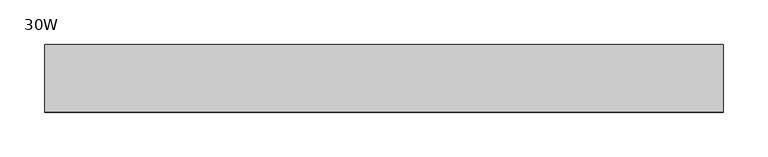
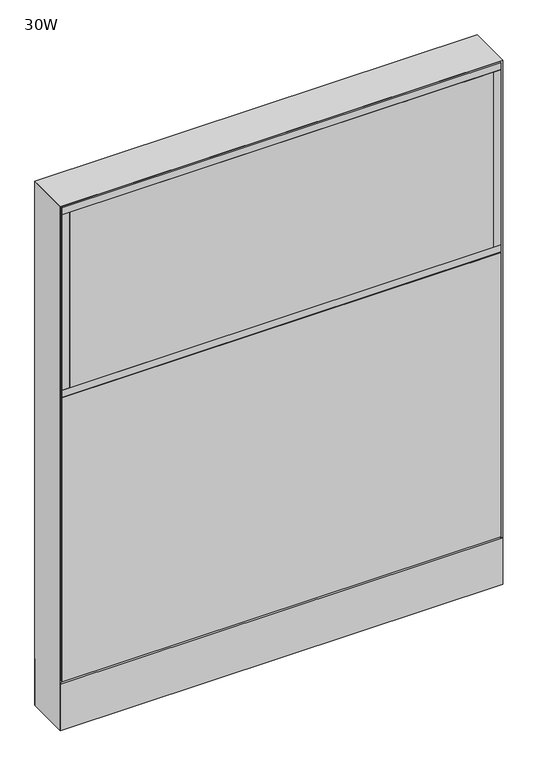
"""IFC4 building model written with IfcOpenShell, lengths in millimetres: furniture geometry, Steelcase - Montage - Frame - 38H - Enhanced Monolithic - Base Cavity : 30W."""

from ifc_helpers import new_model, si_unit, point, frame, frame_2d, origin, origin_with_axes, place, context, project, spatial, polyline, circle_curve, trimmed, segment, composite_curve, outline, extrude, faceted_brep, source, transform, mapped, element, save


def furniture_30w_8b2cd19e(model_context):
    return source(origin(), model_context, "Body", "SolidModel", [
        extrude(outline(polyline([(746.125, 31.7500296), (15.875, 31.7500296), (15.875, 38.1000326), (746.125, 38.1000326), (746.125, 31.7500296)])), frame((0.0, 0.0, 623.7626978), z_axis=(0.0, 0.0, 1.0), x_axis=(1.0, 0.0, 0.0)), (0.0, 0.0, 1.0), 319.2123022),
        extrude(outline(polyline([(746.125, -38.0999704), (15.875, -38.0999704), (15.875, -31.7499706), (746.125, -31.7499706), (746.125, -38.0999704)])), frame((0.0, 0.0, 623.7626978), z_axis=(0.0, 0.0, 1.0), x_axis=(1.0, 0.0, 0.0)), (0.0, 0.0, 1.0), 319.2123022),
        extrude(outline(polyline([(758.825, 38.1000326), (758.825, -38.0999704), (746.125, -38.0999704), (746.125, 38.1000326), (758.825, 38.1000326)])), frame((0.0, 0.0, 623.7626978), z_axis=(0.0, 0.0, 1.0), x_axis=(1.0, 0.0, 0.0)), (0.0, 0.0, 1.0), 319.2123022),
        extrude(outline(polyline([(15.875, 38.1000326), (15.875, -38.0999704), (3.175, -38.0999704), (3.175, 38.1000326), (15.875, 38.1000326)])), frame((0.0, 0.0, 623.7626978), z_axis=(0.0, 0.0, 1.0), x_axis=(1.0, 0.0, 0.0)), (0.0, 0.0, 1.0), 319.2123022),
        extrude(outline(polyline([(758.825, 38.1000326), (758.825, -38.0999704), (3.175, -38.0999704), (3.175, 38.1000326), (758.825, 38.1000326)])), frame((0.0, 0.0, 611.0626978), z_axis=(0.0, 0.0, 1.0), x_axis=(1.0, 0.0, 0.0)), (0.0, 0.0, 1.0), 12.7),
        extrude(outline(polyline([(758.825, 38.1000326), (758.825, -38.0999704), (3.175, -38.0999704), (3.175, 38.1000326), (758.825, 38.1000326)])), frame((0.0, 0.0, 942.975), z_axis=(0.0, 0.0, 1.0), x_axis=(1.0, 0.0, 0.0)), (0.0, 0.0, 1.0), 12.7),
        extrude(outline(polyline([(3.175, 31.7500194), (3.175, 38.1000194), (758.825, 38.1000194), (758.825, 31.7500194), (3.175, 31.7500194)])), frame((0.0, 0.0, 92.075), z_axis=(0.0, 0.0, 1.0), x_axis=(1.0, 0.0, 0.0)), (0.0, 0.0, 1.0), 517.525),
        extrude(outline(polyline([(746.125, -31.7500296), (746.125, -38.1000326), (15.875, -38.1000326), (15.875, -31.7500296), (746.125, -31.7500296)])), frame((0.0, 0.0, 623.7626978), z_axis=(0.0, 0.0, 1.0), x_axis=(1.0, 0.0, 0.0)), (0.0, 0.0, 1.0), 319.2123022),
        extrude(outline(polyline([(746.125, 38.0999704), (746.125, 31.7499706), (15.875, 31.7499706), (15.875, 38.0999704), (746.125, 38.0999704)])), frame((0.0, 0.0, 623.7626978), z_axis=(0.0, 0.0, 1.0), x_axis=(1.0, 0.0, 0.0)), (0.0, 0.0, 1.0), 319.2123022),
        extrude(outline(polyline([(758.825, -38.1000326), (746.125, -38.1000326), (746.125, 38.0999704), (758.825, 38.0999704), (758.825, -38.1000326)])), frame((0.0, 0.0, 623.7626978), z_axis=(0.0, 0.0, 1.0), x_axis=(1.0, 0.0, 0.0)), (0.0, 0.0, 1.0), 319.2123022),
        extrude(outline(polyline([(15.875, -38.1000326), (3.175, -38.1000326), (3.175, 38.0999704), (15.875, 38.0999704), (15.875, -38.1000326)])), frame((0.0, 0.0, 623.7626978), z_axis=(0.0, 0.0, 1.0), x_axis=(1.0, 0.0, 0.0)), (0.0, 0.0, 1.0), 319.2123022),
        extrude(outline(polyline([(758.825, -38.1000326), (3.175, -38.1000326), (3.175, 38.0999704), (758.825, 38.0999704), (758.825, -38.1000326)])), frame((0.0, 0.0, 611.0626978), z_axis=(0.0, 0.0, 1.0), x_axis=(1.0, 0.0, 0.0)), (0.0, 0.0, 1.0), 12.7),
        extrude(outline(polyline([(758.825, -38.1000326), (3.175, -38.1000326), (3.175, 38.0999704), (758.825, 38.0999704), (758.825, -38.1000326)])), frame((0.0, 0.0, 942.975), z_axis=(0.0, 0.0, 1.0), x_axis=(1.0, 0.0, 0.0)), (0.0, 0.0, 1.0), 12.7),
        extrude(outline(polyline([(3.175, -31.7500194), (758.825, -31.7500194), (758.825, -38.1000194), (3.175, -38.1000194), (3.175, -31.7500194)])), frame((0.0, 0.0, 92.075), z_axis=(0.0, 0.0, 1.0), x_axis=(1.0, 0.0, 0.0)), (0.0, 0.0, 1.0), 517.525),
        extrude(outline(polyline([(6.350003, -31.7499985), (755.649997, -31.7499985), (762.0, -38.1000015), (0.0, -38.1000015), (6.350003, -31.7499985)])), frame((0.0, 0.0, 4.064), z_axis=(0.0, 0.0, 1.0), x_axis=(1.0, 0.0, 0.0)), (0.0, 0.0, 1.0), 84.835997),
        extrude(outline(polyline([(6.3500002, 31.7500017), (0.0, 38.1000015), (762.0, 38.1000015), (755.6500002, 31.7500017), (6.3500002, 31.7500017)])), frame((0.0, 0.0, 4.064), z_axis=(0.0, 0.0, 1.0), x_axis=(1.0, 0.0, 0.0)), (0.0, 0.0, 1.0), 84.835997),
        faceted_brep([(755.6499516, -31.749953, 952.4999516), (6.3500484, -31.749953, 952.4999516), (6.3500484, 31.749953, 952.4999516), (755.6499516, 31.749953, 952.4999516), (0.0, -38.1000015, 958.85), (762.0, -38.1000015, 958.85), (762.0, 38.1000015, 958.85), (0.0, 38.1000015, 958.85)], [[[0, 1, 2, 3]], [[4, 5, 6, 7]], [[5, 4, 1, 0]], [[7, 6, 3, 2]], [[1, 4, 7, 2]], [[5, 0, 3, 6]]]),
        extrude(outline(composite_curve([segment(trimmed(circle_curve(frame_2d((44.45, 0.0)), 15.24), [point((29.21, 0.0))], [point((59.69, 0.0))], False, "CARTESIAN"), True, "CONTINUOUS"), segment(trimmed(circle_curve(frame_2d((44.45, 0.0)), 15.24), [point((59.69, 0.0))], [point((29.21, 0.0))], False, "CARTESIAN"), True, "CONTINUOUS")], self_intersect=False)), origin_with_axes(), (0.0, 0.0, 1.0), 4.064),
        extrude(outline(composite_curve([segment(trimmed(circle_curve(frame_2d((717.55, 0.0)), 15.24), [point((702.31, 0.0))], [point((732.79, 0.0))], False, "CARTESIAN"), True, "CONTINUOUS"), segment(trimmed(circle_curve(frame_2d((717.55, 0.0)), 15.24), [point((732.79, 0.0))], [point((702.31, 0.0))], False, "CARTESIAN"), True, "CONTINUOUS")], self_intersect=False)), origin_with_axes(), (0.0, 0.0, 1.0), 4.064),
        faceted_brep([(762.0, -38.1000106, 4.064), (762.0, 38.1000015, 4.064), (762.0, 38.1000015, 958.85), (762.0, -38.1000106, 958.8499637), (0.0, 38.1000015, 4.064), (0.0, -38.1000015, 4.064), (0.0, -38.1000015, 958.85), (0.0, 38.1000015, 958.85), (755.6499879, 31.7500017, 619.125), (6.35, 31.7500017, 619.125), (6.35, -31.7499985, 619.125), (755.6499879, -31.7499985, 619.125), (6.35, 31.7500017, 606.425), (755.6499879, 31.7500017, 606.425), (755.6499879, -31.7499985, 606.425), (6.35, -31.7499985, 606.425), (6.35, 31.7500015, 4.064), (6.35, -31.7500015, 4.064), (755.6499879, 31.7499894, 4.064), (755.6499879, -31.7499985, 4.064), (6.35, 31.7500015, 952.5), (6.35, -31.7500015, 952.5), (755.6499879, -31.7499985, 952.4999516), (755.6499879, 31.7499896, 952.4999516)], [[[0, 1, 2, 3]], [[4, 5, 6, 7]], [[8, 9, 10, 11]], [[12, 13, 14, 15]], [[16, 17, 5, 4]], [[18, 1, 0, 19]], [[17, 16, 12, 15]], [[10, 9, 20, 21]], [[18, 19, 14, 13]], [[8, 11, 22, 23]], [[16, 4, 7, 20, 9, 12]], [[5, 17, 15, 10, 21, 6]], [[19, 0, 3, 22, 11, 14]], [[1, 18, 13, 8, 23, 2]], [[7, 6, 21, 20]], [[3, 2, 23, 22]], [[13, 12, 9, 8]], [[11, 10, 15, 14]]]),
    ])


if __name__ == "__main__":
    model = new_model("IFC4")
    model_context = context("Model", 3, world=origin())
    ifc_project = project(units=[si_unit("LENGTHUNIT", "METRE", prefix="MILLI")], contexts=[model_context])
    site = spatial("IfcSite", under=ifc_project)
    building = spatial("IfcBuilding", under=site)
    placement = place(None, origin())
    furniture_30w_shape = furniture_30w_8b2cd19e(model_context)
    element("IfcFurniture", 1, ObjectType="Steelcase - Montage - Frame - 38H - Enhanced Monolithic - Base Cavity : 30W", at=placement, inside=building, context=model_context, shape_type="MappedRepresentation", body=[
        mapped(furniture_30w_shape, transform((0.0, 0.0, 0.0), x_axis=(1.0, 0.0, 0.0), y_axis=(0.0, 1.0, 0.0), z_axis=(0.0, 0.0, 1.0))),
    ])
    save(model, "model.ifc")
